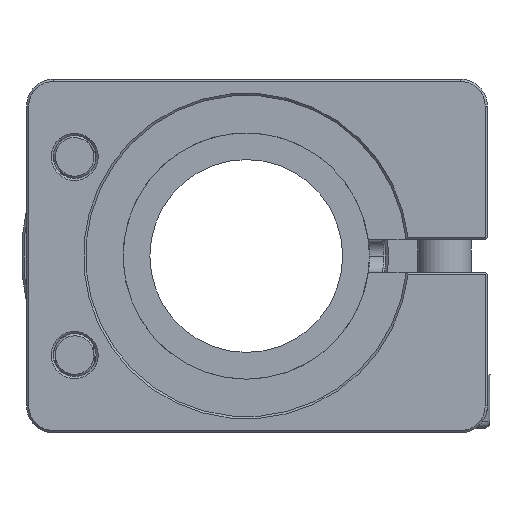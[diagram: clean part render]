
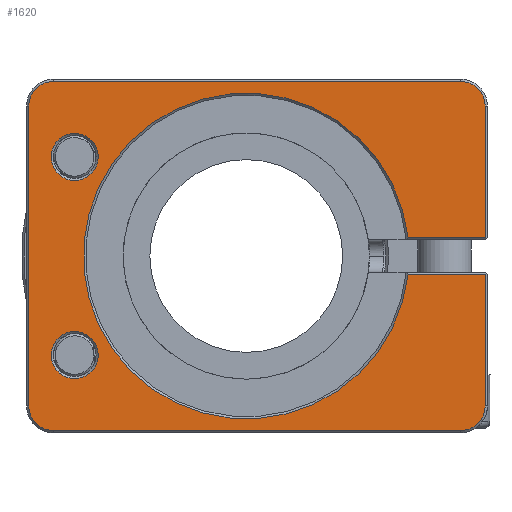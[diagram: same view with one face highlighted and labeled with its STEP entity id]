
A CAD part, front view. The second image highlights one B-rep face of the part: STEP entity #1620.
In plain terms, the highlighted planar face has unit normal (0, -1, 0).
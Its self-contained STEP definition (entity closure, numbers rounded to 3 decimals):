
#1506=FACE_BOUND('',#2055,.T.);
#1507=FACE_BOUND('',#2056,.T.);
#1508=FACE_BOUND('',#2057,.T.);
#1620=ADVANCED_FACE('',(#1506,#1507,#1508),#1804,.F.);
#1804=PLANE('',#4388);
#2055=EDGE_LOOP('',(#2481,#2482,#2483,#2484,#2485,#2486,#2487,#2488,#2489,
#2490,#2491,#2492));
#2056=EDGE_LOOP('',(#2493));
#2057=EDGE_LOOP('',(#2494));
#2309=CIRCLE('',#4381,2.3);
#2310=CIRCLE('',#4382,2.3);
#2311=CIRCLE('',#4383,2.3);
#2312=CIRCLE('',#4384,2.3);
#2313=CIRCLE('',#4385,15.2);
#2314=CIRCLE('',#4386,2.2);
#2315=CIRCLE('',#4387,2.2);
#2481=ORIENTED_EDGE('',*,*,#3551,.T.);
#2482=ORIENTED_EDGE('',*,*,#3552,.T.);
#2483=ORIENTED_EDGE('',*,*,#3553,.T.);
#2484=ORIENTED_EDGE('',*,*,#3554,.T.);
#2485=ORIENTED_EDGE('',*,*,#3555,.T.);
#2486=ORIENTED_EDGE('',*,*,#3556,.T.);
#2487=ORIENTED_EDGE('',*,*,#3557,.T.);
#2488=ORIENTED_EDGE('',*,*,#3558,.T.);
#2489=ORIENTED_EDGE('',*,*,#3559,.T.);
#2490=ORIENTED_EDGE('',*,*,#3560,.T.);
#2491=ORIENTED_EDGE('',*,*,#3561,.T.);
#2492=ORIENTED_EDGE('',*,*,#3562,.T.);
#2493=ORIENTED_EDGE('',*,*,#3563,.T.);
#2494=ORIENTED_EDGE('',*,*,#3564,.T.);
#3281=VERTEX_POINT('',#5655);
#3282=VERTEX_POINT('',#5656);
#3283=VERTEX_POINT('',#5658);
#3284=VERTEX_POINT('',#5660);
#3285=VERTEX_POINT('',#5662);
#3286=VERTEX_POINT('',#5664);
#3287=VERTEX_POINT('',#5666);
#3288=VERTEX_POINT('',#5668);
#3289=VERTEX_POINT('',#5670);
#3290=VERTEX_POINT('',#5672);
#3291=VERTEX_POINT('',#5674);
#3292=VERTEX_POINT('',#5676);
#3293=VERTEX_POINT('',#5679);
#3294=VERTEX_POINT('',#5681);
#3551=EDGE_CURVE('',#3281,#3282,#3931,.T.);
#3552=EDGE_CURVE('',#3282,#3283,#2309,.T.);
#3553=EDGE_CURVE('',#3283,#3284,#3932,.T.);
#3554=EDGE_CURVE('',#3284,#3285,#2310,.T.);
#3555=EDGE_CURVE('',#3285,#3286,#3933,.T.);
#3556=EDGE_CURVE('',#3286,#3287,#2311,.T.);
#3557=EDGE_CURVE('',#3287,#3288,#3934,.T.);
#3558=EDGE_CURVE('',#3288,#3289,#2312,.T.);
#3559=EDGE_CURVE('',#3289,#3290,#3935,.T.);
#3560=EDGE_CURVE('',#3290,#3291,#3936,.T.);
#3561=EDGE_CURVE('',#3291,#3292,#2313,.T.);
#3562=EDGE_CURVE('',#3292,#3281,#3937,.T.);
#3563=EDGE_CURVE('',#3293,#3293,#2314,.T.);
#3564=EDGE_CURVE('',#3294,#3294,#2315,.T.);
#3931=LINE('',#5654,#4156);
#3932=LINE('',#5659,#4157);
#3933=LINE('',#5663,#4158);
#3934=LINE('',#5667,#4159);
#3935=LINE('',#5671,#4160);
#3936=LINE('',#5673,#4161);
#3937=LINE('',#5677,#4162);
#4156=VECTOR('',#4769,1.);
#4157=VECTOR('',#4772,1.);
#4158=VECTOR('',#4775,1.);
#4159=VECTOR('',#4778,1.);
#4160=VECTOR('',#4781,1.);
#4161=VECTOR('',#4782,1.);
#4162=VECTOR('',#4785,1.);
#4381=AXIS2_PLACEMENT_3D('',#5657,#4770,#4771);
#4382=AXIS2_PLACEMENT_3D('',#5661,#4773,#4774);
#4383=AXIS2_PLACEMENT_3D('',#5665,#4776,#4777);
#4384=AXIS2_PLACEMENT_3D('',#5669,#4779,#4780);
#4385=AXIS2_PLACEMENT_3D('',#5675,#4783,#4784);
#4386=AXIS2_PLACEMENT_3D('',#5678,#4786,#4787);
#4387=AXIS2_PLACEMENT_3D('',#5680,#4788,#4789);
#4388=AXIS2_PLACEMENT_3D('',#5682,#4790,#4791);
#4769=DIRECTION('',(0.,0.,1.));
#4770=DIRECTION('',(0.,-1.,0.));
#4771=DIRECTION('',(0.,0.,1.));
#4772=DIRECTION('',(-1.,0.,0.));
#4773=DIRECTION('',(0.,-1.,0.));
#4774=DIRECTION('',(0.,0.,1.));
#4775=DIRECTION('',(0.,0.,-1.));
#4776=DIRECTION('',(0.,-1.,0.));
#4777=DIRECTION('',(0.,0.,1.));
#4778=DIRECTION('',(1.,0.,0.));
#4779=DIRECTION('',(0.,-1.,0.));
#4780=DIRECTION('',(0.,0.,1.));
#4781=DIRECTION('',(0.,0.,1.));
#4782=DIRECTION('',(-1.,0.,0.));
#4783=DIRECTION('',(0.,1.,0.));
#4784=DIRECTION('',(0.,0.,1.));
#4785=DIRECTION('',(1.,0.,0.));
#4786=DIRECTION('',(0.,1.,0.));
#4787=DIRECTION('',(0.,0.,1.));
#4788=DIRECTION('',(0.,1.,0.));
#4789=DIRECTION('',(0.,0.,1.));
#4790=DIRECTION('',(0.,1.,0.));
#4791=DIRECTION('',(0.,0.,1.));
#5654=CARTESIAN_POINT('',(18.989,-10.65,35.));
#5655=CARTESIAN_POINT('',(18.989,-10.65,36.7));
#5656=CARTESIAN_POINT('',(18.989,-10.65,49.));
#5657=CARTESIAN_POINT('',(16.689,-10.65,49.));
#5658=CARTESIAN_POINT('',(16.689,-10.65,51.3));
#5659=CARTESIAN_POINT('',(-3.311,-10.65,51.3));
#5660=CARTESIAN_POINT('',(-21.311,-10.65,51.3));
#5661=CARTESIAN_POINT('',(-21.311,-10.65,49.));
#5662=CARTESIAN_POINT('',(-23.611,-10.65,49.));
#5663=CARTESIAN_POINT('',(-23.611,-10.65,35.));
#5664=CARTESIAN_POINT('',(-23.611,-10.65,21.));
#5665=CARTESIAN_POINT('',(-21.311,-10.65,21.));
#5666=CARTESIAN_POINT('',(-21.311,-10.65,18.7));
#5667=CARTESIAN_POINT('',(-3.311,-10.65,18.7));
#5668=CARTESIAN_POINT('',(16.689,-10.65,18.7));
#5669=CARTESIAN_POINT('',(16.689,-10.65,21.));
#5670=CARTESIAN_POINT('',(18.989,-10.65,21.));
#5671=CARTESIAN_POINT('',(18.989,-10.65,35.));
#5672=CARTESIAN_POINT('',(18.989,-10.65,33.3));
#5673=CARTESIAN_POINT('',(-3.311,-10.65,33.3));
#5674=CARTESIAN_POINT('',(11.794,-10.65,33.3));
#5675=CARTESIAN_POINT('',(-3.311,-10.65,35.));
#5676=CARTESIAN_POINT('',(11.794,-10.65,36.7));
#5677=CARTESIAN_POINT('',(-3.311,-10.65,36.7));
#5678=CARTESIAN_POINT('',(-19.332,-10.65,25.75));
#5679=CARTESIAN_POINT('',(-19.332,-10.65,27.95));
#5680=CARTESIAN_POINT('',(-19.332,-10.65,44.25));
#5681=CARTESIAN_POINT('',(-19.332,-10.65,46.45));
#5682=CARTESIAN_POINT('',(-3.311,-10.65,35.));
